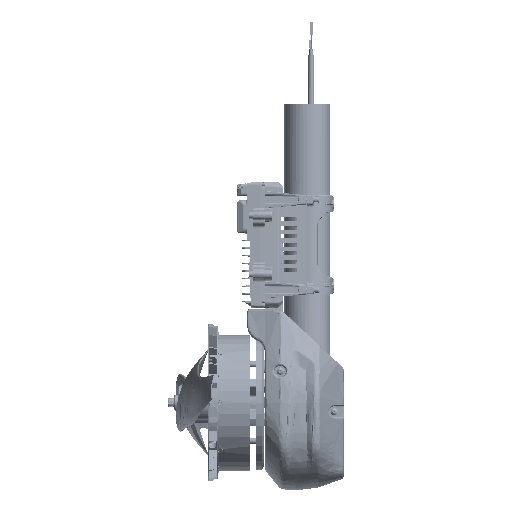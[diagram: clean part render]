
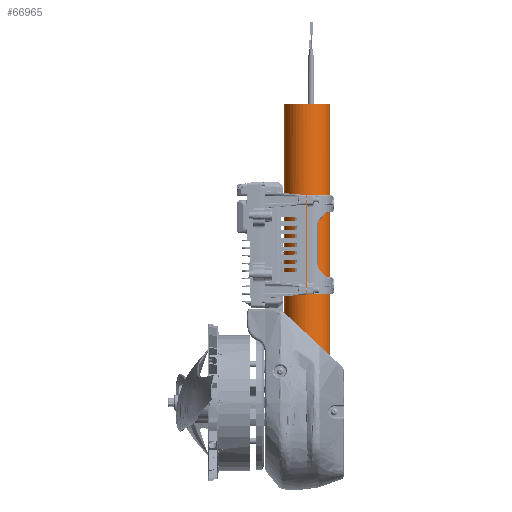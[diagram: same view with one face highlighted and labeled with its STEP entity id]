
A CAD part, left-side view. The second image highlights one B-rep face of the part: STEP entity #66965.
In plain terms, the highlighted cylindrical face has radius 25 mm (diameter 50 mm), a partial arc.
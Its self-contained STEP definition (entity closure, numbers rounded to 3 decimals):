
#46575=CARTESIAN_POINT('',(0.,0.,0.));
#46576=DIRECTION('',(0.,-1.,0.));
#46577=DIRECTION('',(0.,0.,-1.));
#46578=AXIS2_PLACEMENT_3D('',#46575,#46576,#46577);
#46642=CARTESIAN_POINT('',(0.,0.,0.));
#46643=DIRECTION('',(0.,1.,0.));
#46644=DIRECTION('',(0.636,0.,-0.772));
#46645=AXIS2_PLACEMENT_3D('',#46642,#46643,#46644);
#46650=DIRECTION('',(0.,1.,0.));
#46651=VECTOR('',#46650,76.697);
#46652=CARTESIAN_POINT('',(15.891,0.,-19.3));
#46653=LINE('',#46652,#46651);
#46657=CARTESIAN_POINT('',(0.,76.697,0.));
#46658=DIRECTION('',(0.,1.,0.));
#46659=DIRECTION('',(0.,0.,1.));
#46660=AXIS2_PLACEMENT_3D('',#46657,#46658,#46659);
#46665=DIRECTION('',(0.,1.,0.));
#46666=VECTOR('',#46665,273.303);
#46667=CARTESIAN_POINT('',(0.,76.697,25.));
#46668=LINE('',#46667,#46666);
#56489=DIRECTION('',(0.,-1.,0.));
#56490=VECTOR('',#56489,350.);
#56491=CARTESIAN_POINT('',(0.,350.,-25.));
#56492=LINE('',#56491,#56490);
#56519=CARTESIAN_POINT('',(0.,350.,0.));
#56520=DIRECTION('',(0.,1.,0.));
#56521=DIRECTION('',(0.,0.,1.));
#56522=AXIS2_PLACEMENT_3D('',#56519,#56520,#56521);
#58226=CARTESIAN_POINT('',(0.,350.,25.));
#58227=CARTESIAN_POINT('',(0.,350.,-25.));
#58228=VERTEX_POINT('',#58226);
#58229=VERTEX_POINT('',#58227);
#58230=CARTESIAN_POINT('',(0.,0.,-25.));
#58231=VERTEX_POINT('',#58230);
#59836=CARTESIAN_POINT('',(0.,76.697,25.));
#59837=CARTESIAN_POINT('',(15.891,76.697,-19.3));
#59838=VERTEX_POINT('',#59836);
#59839=VERTEX_POINT('',#59837);
#59958=CARTESIAN_POINT('',(15.891,0.,-19.3));
#59959=CARTESIAN_POINT('',(1.25,0.,-24.969));
#59960=VERTEX_POINT('',#59958);
#59961=VERTEX_POINT('',#59959);
#66947=CARTESIAN_POINT('',(0.,0.,0.));
#66948=DIRECTION('',(0.,1.,0.));
#66949=DIRECTION('',(0.,0.,1.));
#66950=AXIS2_PLACEMENT_3D('',#66947,#66948,#66949);
#66951=CYLINDRICAL_SURFACE('',#66950,25.);
#66953=ORIENTED_EDGE('',*,*,#66952,.F.);
#66954=ORIENTED_EDGE('',*,*,#66736,.T.);
#66955=ORIENTED_EDGE('',*,*,#66897,.F.);
#66957=ORIENTED_EDGE('',*,*,#66956,.T.);
#66959=ORIENTED_EDGE('',*,*,#66958,.T.);
#66961=ORIENTED_EDGE('',*,*,#66960,.T.);
#66962=ORIENTED_EDGE('',*,*,#66862,.T.);
#66963=EDGE_LOOP('',(#66953,#66954,#66955,#66957,#66959,#66961,#66962));
#66964=FACE_OUTER_BOUND('',#66963,.F.);
#46579=CIRCLE('',#46578,25.);
#46646=CIRCLE('',#46645,25.);
#46661=CIRCLE('',#46660,25.);
#56523=CIRCLE('',#56522,25.);
#66736=EDGE_CURVE('',#59960,#59839,#46653,.T.);
#66862=EDGE_CURVE('',#58231,#59961,#46579,.T.);
#66897=EDGE_CURVE('',#59838,#59839,#46661,.T.);
#66952=EDGE_CURVE('',#59960,#59961,#46646,.T.);
#66956=EDGE_CURVE('',#59838,#58228,#46668,.T.);
#66958=EDGE_CURVE('',#58228,#58229,#56523,.T.);
#66960=EDGE_CURVE('',#58229,#58231,#56492,.T.);
#66965=ADVANCED_FACE('',(#66964),#66951,.T.);
